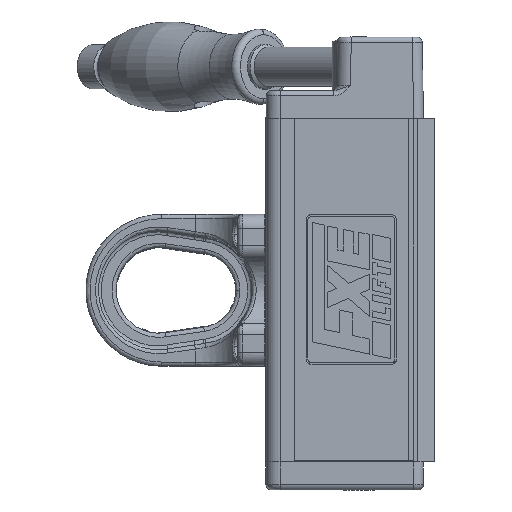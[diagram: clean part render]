
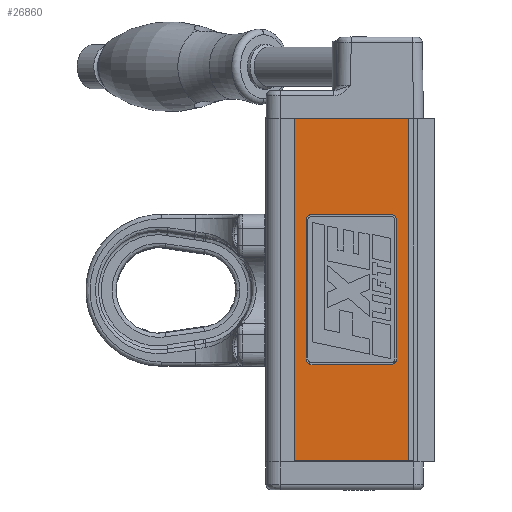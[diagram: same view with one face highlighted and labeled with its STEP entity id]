
A CAD part, left-side view. The second image highlights one B-rep face of the part: STEP entity #26860.
In plain terms, the highlighted planar face has unit normal (-1, 0, 0).
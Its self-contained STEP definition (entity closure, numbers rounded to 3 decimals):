
#106 = LINE ( 'NONE', #7418, #8270 ) ;
#268 = CARTESIAN_POINT ( 'NONE',  ( -31.5, -11.285, -26.438 ) ) ;
#734 = EDGE_CURVE ( 'NONE', #32461, #48080, #31552, .T. ) ;
#1453 = CARTESIAN_POINT ( 'NONE',  ( -31.5, 17.802, 26.938 ) ) ;
#1554 = CARTESIAN_POINT ( 'NONE',  ( -31.5, 23., -60.5 ) ) ;
#2588 = EDGE_CURVE ( 'NONE', #20695, #49095, #42359, .T. ) ;
#2615 = CARTESIAN_POINT ( 'NONE',  ( -31.5, 1.75, 0.25 ) ) ;
#3055 = VERTEX_POINT ( 'NONE', #58257 ) ;
#3981 = LINE ( 'NONE', #42902, #29282 ) ;
#4905 = DIRECTION ( 'NONE',  ( 0., -1., 0. ) ) ;
#5288 = EDGE_CURVE ( 'NONE', #61188, #49151, #8593, .T. ) ;
#5351 = CARTESIAN_POINT ( 'NONE',  ( -31.5, 18.768, -24.427 ) ) ;
#5688 = EDGE_CURVE ( 'NONE', #23749, #3055, #40681, .T. ) ;
#6187 = VECTOR ( 'NONE', #10469, 1000. ) ;
#6728 = CARTESIAN_POINT ( 'NONE',  ( -31.5, -13.432, 0.25 ) ) ;
#7262 = LINE ( 'NONE', #58279, #42285 ) ;
#7362 = DIRECTION ( 'NONE',  ( 0., 1., 0. ) ) ;
#7369 = FACE_BOUND ( 'NONE', #53062, .T. ) ;
#7418 = CARTESIAN_POINT ( 'NONE',  ( -31.5, -19.5, 61. ) ) ;
#7472 = CARTESIAN_POINT ( 'NONE',  ( -31.5, -13.432, 24.927 ) ) ;
#7842 = PLANE ( 'NONE',  #44794 ) ;
#8242 = EDGE_CURVE ( 'NONE', #56260, #23749, #24530, .T. ) ;
#8270 = VECTOR ( 'NONE', #55295, 1000. ) ;
#8484 = ORIENTED_EDGE ( 'NONE', *, *, #5288, .T. ) ;
#8593 = B_SPLINE_CURVE_WITH_KNOTS ( 'NONE', 3,
 ( #36026, #35013, #48301, #7472 ),
 .UNSPECIFIED., .F., .F.,
 ( 4, 4 ),
 ( 3., 4. ),
 .UNSPECIFIED. ) ;
#8872 = EDGE_CURVE ( 'NONE', #29386, #20695, #106, .T. ) ;
#8881 = VERTEX_POINT ( 'NONE', #40947 ) ;
#10469 = DIRECTION ( 'NONE',  ( 0., 0., 1. ) ) ;
#11084 = B_SPLINE_CURVE_WITH_KNOTS ( 'NONE', 3,
 ( #20150, #54057, #25548, #58860 ),
 .UNSPECIFIED., .F., .F.,
 ( 4, 4 ),
 ( 7., 8. ),
 .UNSPECIFIED. ) ;
#11522 = DIRECTION ( 'NONE',  ( 0., 0., -1. ) ) ;
#11835 = ORIENTED_EDGE ( 'NONE', *, *, #8242, .T. ) ;
#12215 = EDGE_CURVE ( 'NONE', #49095, #8881, #7262, .T. ) ;
#12423 = VECTOR ( 'NONE', #11522, 1000. ) ;
#14396 = DIRECTION ( 'NONE',  ( 0., 0., 1. ) ) ;
#14429 = ORIENTED_EDGE ( 'NONE', *, *, #43972, .T. ) ;
#14507 = CARTESIAN_POINT ( 'NONE',  ( -31.5, 1.75, 26.938 ) ) ;
#14622 = B_SPLINE_CURVE_WITH_KNOTS ( 'NONE', 3,
 ( #25155, #56165, #1453, #34742 ),
 .UNSPECIFIED., .F., .F.,
 ( 4, 4 ),
 ( 1., 2. ),
 .UNSPECIFIED. ) ;
#15617 = DIRECTION ( 'NONE',  ( 0., 0., -1. ) ) ;
#18244 = VERTEX_POINT ( 'NONE', #34249 ) ;
#18804 = ORIENTED_EDGE ( 'NONE', *, *, #5688, .T. ) ;
#18927 = CARTESIAN_POINT ( 'NONE',  ( -31.5, -11.285, 26.938 ) ) ;
#20150 = CARTESIAN_POINT ( 'NONE',  ( -31.5, 16.622, -26.438 ) ) ;
#20268 = CARTESIAN_POINT ( 'NONE',  ( -31.5, -13.432, 24.927 ) ) ;
#20695 = VERTEX_POINT ( 'NONE', #57481 ) ;
#23491 = DIRECTION ( 'NONE',  ( 0., 1., 0. ) ) ;
#23749 = VERTEX_POINT ( 'NONE', #48610 ) ;
#24530 = B_SPLINE_CURVE_WITH_KNOTS ( 'NONE', 3,
 ( #33386, #57299, #28767, #268 ),
 .UNSPECIFIED., .F., .F.,
 ( 4, 4 ),
 ( 5., 6. ),
 .UNSPECIFIED. ) ;
#24974 = DIRECTION ( 'NONE',  ( 0., -1., 0. ) ) ;
#25155 = CARTESIAN_POINT ( 'NONE',  ( -31.5, 18.768, 24.927 ) ) ;
#25548 = CARTESIAN_POINT ( 'NONE',  ( -31.5, 18.768, -25.533 ) ) ;
#26860 = ADVANCED_FACE ( 'NONE', ( #31228, #7369 ), #7842, .F. ) ;
#28422 = LINE ( 'NONE', #14507, #39621 ) ;
#28767 = CARTESIAN_POINT ( 'NONE',  ( -31.5, -12.466, -26.438 ) ) ;
#29242 = ORIENTED_EDGE ( 'NONE', *, *, #41728, .T. ) ;
#29282 = VECTOR ( 'NONE', #14396, 1000. ) ;
#29386 = VERTEX_POINT ( 'NONE', #31533 ) ;
#29689 = VECTOR ( 'NONE', #15617, 1000. ) ;
#30851 = EDGE_CURVE ( 'NONE', #48080, #18244, #14622, .T. ) ;
#31228 = FACE_OUTER_BOUND ( 'NONE', #58447, .T. ) ;
#31533 = CARTESIAN_POINT ( 'NONE',  ( -31.5, -19.5, 61. ) ) ;
#31552 = LINE ( 'NONE', #39207, #6187 ) ;
#32461 = VERTEX_POINT ( 'NONE', #5351 ) ;
#32601 = ORIENTED_EDGE ( 'NONE', *, *, #30851, .T. ) ;
#33386 = CARTESIAN_POINT ( 'NONE',  ( -31.5, -13.432, -24.427 ) ) ;
#34249 = CARTESIAN_POINT ( 'NONE',  ( -31.5, 16.622, 26.938 ) ) ;
#34252 = ORIENTED_EDGE ( 'NONE', *, *, #2588, .T. ) ;
#34742 = CARTESIAN_POINT ( 'NONE',  ( -31.5, 16.622, 26.938 ) ) ;
#35013 = CARTESIAN_POINT ( 'NONE',  ( -31.5, -12.465, 26.938 ) ) ;
#35915 = DIRECTION ( 'NONE',  ( 1., 0., 0. ) ) ;
#36026 = CARTESIAN_POINT ( 'NONE',  ( -31.5, -11.285, 26.938 ) ) ;
#37267 = EDGE_CURVE ( 'NONE', #3055, #32461, #11084, .T. ) ;
#37658 = ORIENTED_EDGE ( 'NONE', *, *, #8872, .T. ) ;
#39191 = VECTOR ( 'NONE', #23491, 1000. ) ;
#39207 = CARTESIAN_POINT ( 'NONE',  ( -31.5, 18.768, 0.25 ) ) ;
#39621 = VECTOR ( 'NONE', #4905, 1000. ) ;
#40681 = LINE ( 'NONE', #47199, #39191 ) ;
#40947 = CARTESIAN_POINT ( 'NONE',  ( -31.5, -19.5, -60.5 ) ) ;
#40964 = ORIENTED_EDGE ( 'NONE', *, *, #734, .T. ) ;
#41728 = EDGE_CURVE ( 'NONE', #49151, #56260, #61598, .T. ) ;
#42285 = VECTOR ( 'NONE', #24974, 1000. ) ;
#42359 = LINE ( 'NONE', #1554, #29689 ) ;
#42902 = CARTESIAN_POINT ( 'NONE',  ( -31.5, -19.5, -60.5 ) ) ;
#43589 = ORIENTED_EDGE ( 'NONE', *, *, #37267, .T. ) ;
#43972 = EDGE_CURVE ( 'NONE', #8881, #29386, #3981, .T. ) ;
#44794 = AXIS2_PLACEMENT_3D ( 'NONE', #2615, #35915, #7362 ) ;
#44917 = CARTESIAN_POINT ( 'NONE',  ( -31.5, -13.432, -24.427 ) ) ;
#47199 = CARTESIAN_POINT ( 'NONE',  ( -31.5, 1.75, -26.438 ) ) ;
#48080 = VERTEX_POINT ( 'NONE', #53720 ) ;
#48301 = CARTESIAN_POINT ( 'NONE',  ( -31.5, -13.432, 26.033 ) ) ;
#48353 = CARTESIAN_POINT ( 'NONE',  ( -31.5, 23., -60.5 ) ) ;
#48610 = CARTESIAN_POINT ( 'NONE',  ( -31.5, -11.285, -26.438 ) ) ;
#49095 = VERTEX_POINT ( 'NONE', #48353 ) ;
#49151 = VERTEX_POINT ( 'NONE', #20268 ) ;
#53062 = EDGE_LOOP ( 'NONE', ( #29242, #11835, #18804, #43589, #40964, #32601, #60057, #8484 ) ) ;
#53720 = CARTESIAN_POINT ( 'NONE',  ( -31.5, 18.768, 24.927 ) ) ;
#54057 = CARTESIAN_POINT ( 'NONE',  ( -31.5, 17.802, -26.438 ) ) ;
#54563 = EDGE_CURVE ( 'NONE', #18244, #61188, #28422, .T. ) ;
#55295 = DIRECTION ( 'NONE',  ( 0., 1., 0. ) ) ;
#56165 = CARTESIAN_POINT ( 'NONE',  ( -31.5, 18.768, 26.033 ) ) ;
#56260 = VERTEX_POINT ( 'NONE', #44917 ) ;
#57299 = CARTESIAN_POINT ( 'NONE',  ( -31.5, -13.432, -25.532 ) ) ;
#57481 = CARTESIAN_POINT ( 'NONE',  ( -31.5, 23., 61. ) ) ;
#58257 = CARTESIAN_POINT ( 'NONE',  ( -31.5, 16.622, -26.438 ) ) ;
#58279 = CARTESIAN_POINT ( 'NONE',  ( -31.5, -19.5, -60.5 ) ) ;
#58447 = EDGE_LOOP ( 'NONE', ( #37658, #34252, #61719, #14429 ) ) ;
#58860 = CARTESIAN_POINT ( 'NONE',  ( -31.5, 18.768, -24.427 ) ) ;
#60057 = ORIENTED_EDGE ( 'NONE', *, *, #54563, .T. ) ;
#61188 = VERTEX_POINT ( 'NONE', #18927 ) ;
#61598 = LINE ( 'NONE', #6728, #12423 ) ;
#61719 = ORIENTED_EDGE ( 'NONE', *, *, #12215, .T. ) ;
